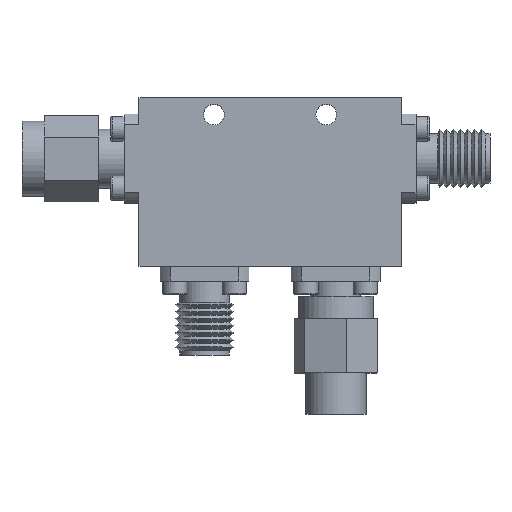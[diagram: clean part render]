
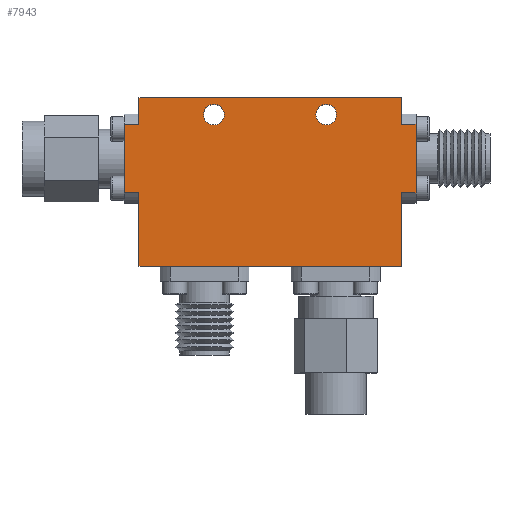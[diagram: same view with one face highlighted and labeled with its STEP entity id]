
A CAD part, top view. The second image highlights one B-rep face of the part: STEP entity #7943.
In plain terms, the highlighted planar face has unit normal (0, 0, 1).
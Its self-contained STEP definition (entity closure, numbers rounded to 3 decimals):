
#319=LINE('',#10607,#637);
#323=LINE('',#10615,#641);
#335=LINE('',#10661,#653);
#338=LINE('',#10670,#656);
#341=LINE('',#10675,#659);
#352=LINE('',#10711,#670);
#353=LINE('',#10713,#671);
#354=LINE('',#10715,#672);
#355=LINE('',#10716,#673);
#356=LINE('',#10718,#674);
#357=LINE('',#10720,#675);
#358=LINE('',#10721,#676);
#637=VECTOR('',#9000,1000.);
#641=VECTOR('',#9004,1000.);
#653=VECTOR('',#9040,1000.);
#656=VECTOR('',#9047,1000.);
#659=VECTOR('',#9050,1000.);
#670=VECTOR('',#9083,1000.);
#671=VECTOR('',#9084,1000.);
#672=VECTOR('',#9085,1000.);
#673=VECTOR('',#9086,1000.);
#674=VECTOR('',#9087,1000.);
#675=VECTOR('',#9088,1000.);
#676=VECTOR('',#9089,1000.);
#1017=ORIENTED_EDGE('',*,*,#2329,.T.);
#1018=ORIENTED_EDGE('',*,*,#2350,.F.);
#1019=ORIENTED_EDGE('',*,*,#2351,.F.);
#1020=ORIENTED_EDGE('',*,*,#2352,.T.);
#1021=ORIENTED_EDGE('',*,*,#2332,.T.);
#1022=ORIENTED_EDGE('',*,*,#2325,.T.);
#1023=ORIENTED_EDGE('',*,*,#2298,.T.);
#1024=ORIENTED_EDGE('',*,*,#2353,.F.);
#1025=ORIENTED_EDGE('',*,*,#2354,.F.);
#1026=ORIENTED_EDGE('',*,*,#2355,.T.);
#1027=ORIENTED_EDGE('',*,*,#2302,.T.);
#1028=ORIENTED_EDGE('',*,*,#2356,.T.);
#1029=ORIENTED_EDGE('',*,*,#2341,.T.);
#1030=ORIENTED_EDGE('',*,*,#2339,.T.);
#2298=EDGE_CURVE('',#2970,#2968,#319,.T.);
#2302=EDGE_CURVE('',#2974,#2973,#323,.T.);
#2325=EDGE_CURVE('',#2996,#2970,#335,.T.);
#2329=EDGE_CURVE('',#3000,#2998,#338,.T.);
#2332=EDGE_CURVE('',#3002,#2996,#341,.T.);
#2339=EDGE_CURVE('',#3008,#3008,#3513,.T.);
#2341=EDGE_CURVE('',#3010,#3010,#3515,.T.);
#2350=EDGE_CURVE('',#3016,#2998,#352,.T.);
#2351=EDGE_CURVE('',#3017,#3016,#353,.T.);
#2352=EDGE_CURVE('',#3017,#3002,#354,.T.);
#2353=EDGE_CURVE('',#3018,#2968,#355,.T.);
#2354=EDGE_CURVE('',#3019,#3018,#356,.T.);
#2355=EDGE_CURVE('',#3019,#2974,#357,.T.);
#2356=EDGE_CURVE('',#2973,#3000,#358,.T.);
#2968=VERTEX_POINT('',#10605);
#2970=VERTEX_POINT('',#10608);
#2973=VERTEX_POINT('',#10614);
#2974=VERTEX_POINT('',#10616);
#2996=VERTEX_POINT('',#10662);
#2998=VERTEX_POINT('',#10668);
#3000=VERTEX_POINT('',#10671);
#3002=VERTEX_POINT('',#10676);
#3008=VERTEX_POINT('',#10690);
#3010=VERTEX_POINT('',#10695);
#3016=VERTEX_POINT('',#10712);
#3017=VERTEX_POINT('',#10714);
#3018=VERTEX_POINT('',#10717);
#3019=VERTEX_POINT('',#10719);
#3513=CIRCLE('',#8370,1.1);
#3515=CIRCLE('',#8373,1.1);
#3764=EDGE_LOOP('',(#1017,#1018,#1019,#1020,#1021,#1022,#1023,#1024,#1025,
#1026,#1027,#1028));
#3765=EDGE_LOOP('',(#1029));
#3766=EDGE_LOOP('',(#1030));
#4380=FACE_BOUND('',#3764,.T.);
#4381=FACE_BOUND('',#3765,.T.);
#4382=FACE_BOUND('',#3766,.T.);
#5006=PLANE('',#8376);
#7943=ADVANCED_FACE('',(#4380,#4381,#4382),#5006,.T.);
#8370=AXIS2_PLACEMENT_3D('',#10689,#9062,#9063);
#8373=AXIS2_PLACEMENT_3D('',#10694,#9068,#9069);
#8376=AXIS2_PLACEMENT_3D('',#10710,#9081,#9082);
#9000=DIRECTION('',(0.,1.,0.));
#9004=DIRECTION('',(0.,1.,0.));
#9040=DIRECTION('',(1.,0.,0.));
#9047=DIRECTION('',(0.,-1.,0.));
#9050=DIRECTION('',(0.,-1.,0.));
#9062=DIRECTION('',(0.,0.,-1.));
#9063=DIRECTION('',(0.,-1.,0.));
#9068=DIRECTION('',(0.,0.,-1.));
#9069=DIRECTION('',(0.,-1.,0.));
#9081=DIRECTION('',(0.,0.,1.));
#9082=DIRECTION('',(1.,0.,0.));
#9083=DIRECTION('',(1.,0.,0.));
#9084=DIRECTION('',(0.,1.,0.));
#9085=DIRECTION('',(1.,0.,0.));
#9086=DIRECTION('',(-1.,0.,0.));
#9087=DIRECTION('',(0.,-1.,0.));
#9088=DIRECTION('',(-1.,0.,0.));
#9089=DIRECTION('',(-1.,0.,0.));
#10605=CARTESIAN_POINT('',(14.,-1.166,10.));
#10607=CARTESIAN_POINT('',(14.,-9.,10.));
#10608=CARTESIAN_POINT('',(14.,-9.,10.));
#10614=CARTESIAN_POINT('',(14.,9.,10.));
#10615=CARTESIAN_POINT('',(14.,-9.,10.));
#10616=CARTESIAN_POINT('',(14.,6.166,10.));
#10661=CARTESIAN_POINT('',(-14.,-9.,10.));
#10662=CARTESIAN_POINT('',(-14.,-9.,10.));
#10668=CARTESIAN_POINT('',(-14.,6.162,10.));
#10670=CARTESIAN_POINT('',(-14.,9.,10.));
#10671=CARTESIAN_POINT('',(-14.,9.,10.));
#10675=CARTESIAN_POINT('',(-14.,9.,10.));
#10676=CARTESIAN_POINT('',(-14.,-1.169,10.));
#10689=CARTESIAN_POINT('',(6.,7.2,10.));
#10690=CARTESIAN_POINT('',(6.,6.1,10.));
#10694=CARTESIAN_POINT('',(-6.,7.2,10.));
#10695=CARTESIAN_POINT('',(-6.,6.1,10.));
#10710=CARTESIAN_POINT('',(0.,0.,10.));
#10711=CARTESIAN_POINT('',(-15.6,6.162,10.));
#10712=CARTESIAN_POINT('',(-15.6,6.162,10.));
#10713=CARTESIAN_POINT('',(-15.6,-1.169,10.));
#10714=CARTESIAN_POINT('',(-15.6,-1.169,10.));
#10715=CARTESIAN_POINT('',(-15.6,-1.169,10.));
#10716=CARTESIAN_POINT('',(15.6,-1.166,10.));
#10717=CARTESIAN_POINT('',(15.6,-1.166,10.));
#10718=CARTESIAN_POINT('',(15.6,6.166,10.));
#10719=CARTESIAN_POINT('',(15.6,6.166,10.));
#10720=CARTESIAN_POINT('',(15.6,6.166,10.));
#10721=CARTESIAN_POINT('',(14.,9.,10.));
